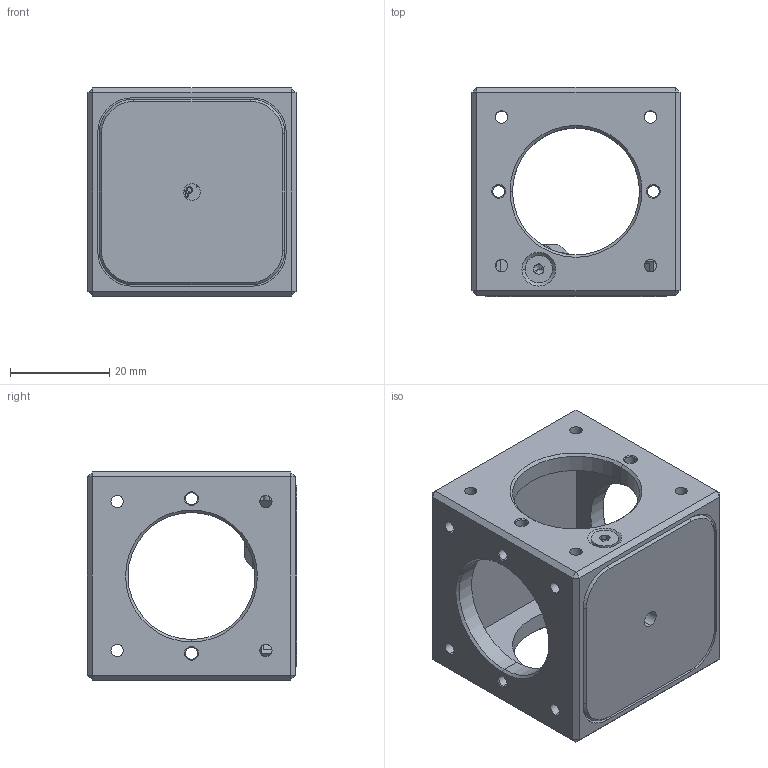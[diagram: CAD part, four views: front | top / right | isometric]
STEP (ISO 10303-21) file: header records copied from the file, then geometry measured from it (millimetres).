
FILE_DESCRIPTION (( 'STEP AP203' ), '1' );
FILE_NAME ('CSC1-3L.STEP', '2024-03-28T03:19:32', ( '' ), ( '' ), 'SwSTEP 2.0', 'SolidWorks 2021', '' );
FILE_SCHEMA (( 'CONFIG_CONTROL_DESIGN' ));
Length unit declared in the file: millimetre
Products named in the file (1): CSC1-3L
Bounding box: 42 x 42.2 x 42 mm (x, y, z)
Surface area: 16321.3 mm2 (no closed solid volume)
Topology: 0 solids, 16 shells, 351 faces, 1698 edges, 1333 vertices
Faces by surface type: plane 196, cylinder 96, cone 45, bspline 14
Entity records: 19945 total; most frequent: CARTESIAN_POINT 6925, DIRECTION 2439, ORIENTED_EDGE 2368, EDGE_CURVE 1694, VERTEX_POINT 1333, LINE 1217, VECTOR 1217, AXIS2_PLACEMENT_3D 611
